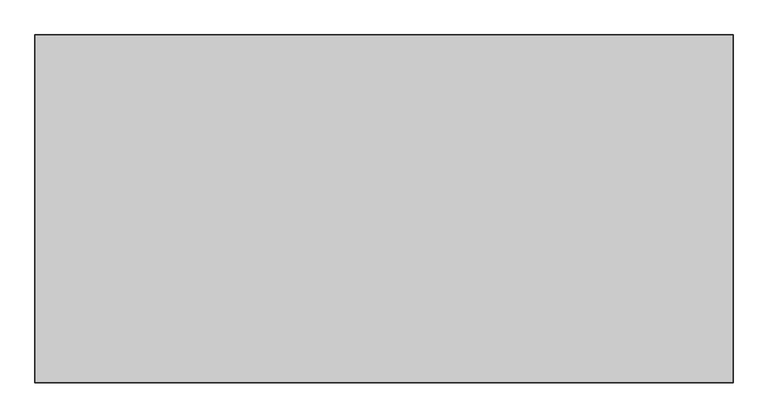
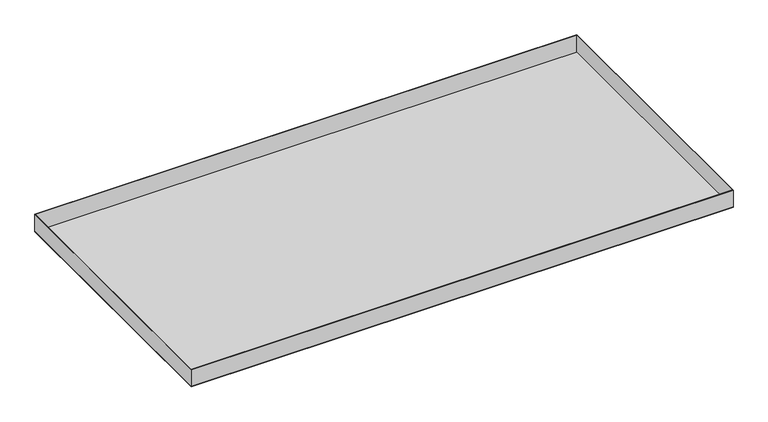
"""IFC4 building model written with IfcOpenShell, lengths in millimetres: proxy geometry, durlum_S4_panel : durlum_S4_panel."""

import ifcopenshell
import ifcopenshell.guid

model = None  # the IFC model being written
_history = None  # IfcOwnerHistory: only IFC2X3 demands one
_inside = {}  # id of a spatial element -> (the spatial element, [elements in it])
_under = {}  # id of a project, library or spatial element -> (it, [spatial elements below it])
_declared = {}  # id of a project -> (the project, [libraries it declares])
_typed = {}  # id of a type object -> (the type object, [elements of that type])
_made_of = {}  # id of a material, layer set ... -> (it, [elements and type objects made of it])


def new_model(schema):
    """Start an empty IFC model of exactly this schema.

    Asked for "IFC4X3", IfcOpenShell would pick the latest addendum, in which some entities
    have other attributes; the version numbers below select the first issue.
    IFC2X3 requires an IfcOwnerHistory on every rooted entity: one is made here for all.
    """
    global model, _history
    if schema == "IFC4X3":
        model = ifcopenshell.file(schema_version=(4, 3, 0, 0))
    else:
        model = ifcopenshell.file(schema=schema)
    _inside.clear()
    _under.clear()
    _declared.clear()
    _typed.clear()
    _made_of.clear()
    _history = None
    if model.schema == "IFC2X3":
        org = make("IfcOrganization", Name="unknown")
        user = make(
            "IfcPersonAndOrganization",
            ThePerson=make("IfcPerson", FamilyName="unknown"),
            TheOrganization=org,
        )
        app = make(
            "IfcApplication",
            ApplicationDeveloper=org,
            Version="unknown",
            ApplicationFullName="unknown",
            ApplicationIdentifier="unknown",
        )
        _history = make(
            "IfcOwnerHistory",
            OwningUser=user,
            OwningApplication=app,
            ChangeAction="ADDED",
            CreationDate=0,
        )
    return model


def make(cls, **values):
    """One entity of the class cls with the attributes given. An attribute that is None is left unset."""
    return model.create_entity(
        cls, **{name: value for name, value in values.items() if value is not None}
    )


def rooted(cls, **values):
    """An entity with a GlobalId (a new one), such as an element, a storey or a relation."""
    return make(cls, GlobalId=ifcopenshell.guid.new(), OwnerHistory=_history, **values)


def si_unit(unit_type, name, prefix=None):
    """IfcSIUnit, for example si_unit("LENGTHUNIT", "METRE", prefix="MILLI")."""
    return make("IfcSIUnit", UnitType=unit_type, Prefix=prefix, Name=name)


def assignment(units):
    """IfcUnitAssignment: the units of a project."""
    return None if units is None else make("IfcUnitAssignment", Units=units)


def point(xyz):
    """IfcCartesianPoint."""
    return None if xyz is None else make("IfcCartesianPoint", Coordinates=xyz)


def direction(xyz):
    """IfcDirection."""
    return None if xyz is None else make("IfcDirection", DirectionRatios=xyz)


def frame(location, z_axis=None, x_axis=None):
    """IfcAxis2Placement3D, a coordinate frame: its origin and axes. An axis left out is left unset."""
    return make(
        "IfcAxis2Placement3D",
        Location=point(location),
        Axis=direction(z_axis),
        RefDirection=direction(x_axis),
    )


def origin():
    """The frame at (0, 0, 0) with its axes left unset."""
    return frame((0.0, 0.0, 0.0))


def origin_with_axes():
    """The frame at (0, 0, 0) with the z axis (0, 0, 1) and the x axis (1, 0, 0) written out."""
    return frame((0.0, 0.0, 0.0), z_axis=(0.0, 0.0, 1.0), x_axis=(1.0, 0.0, 0.0))


def place(relative_to, where):
    """IfcLocalPlacement: puts the frame where relative to a parent placement (None: the world)."""
    return make(
        "IfcLocalPlacement", PlacementRelTo=relative_to, RelativePlacement=where
    )


def context(
    kind, dimensions, precision=None, world=None, true_north=None, identifier=None
):
    """IfcGeometricRepresentationContext, for example the 3D "Model" context."""
    return make(
        "IfcGeometricRepresentationContext",
        ContextIdentifier=identifier,
        ContextType=kind,
        CoordinateSpaceDimension=dimensions,
        Precision=precision,
        WorldCoordinateSystem=world,
        TrueNorth=true_north,
    )


def project(units=None, contexts=None):
    """IfcProject with its units and contexts."""
    return rooted(
        "IfcProject",
        Name="project",
        RepresentationContexts=contexts,
        UnitsInContext=assignment(units),
    )


def spatial(cls, under=None, at=None, **own):
    """A site, building, storey or space (cls), placed at a placement, below another one or the project."""
    s = rooted(cls, ObjectPlacement=at, **own)
    if under is not None:
        _under.setdefault(under.id(), (under, []))[1].append(s)
    return s


def polyline(points):
    """IfcPolyline through the points."""
    return make("IfcPolyline", Points=[point(p) for p in points])


def outline(outer, holes=None, kind="AREA"):
    """IfcArbitraryClosedProfileDef: a profile drawn as a closed curve; with holes, ...WithVoids."""
    if holes is None:
        return make("IfcArbitraryClosedProfileDef", ProfileType=kind, OuterCurve=outer)
    return make(
        "IfcArbitraryProfileDefWithVoids",
        ProfileType=kind,
        OuterCurve=outer,
        InnerCurves=holes,
    )


def extrude(swept, where, along, depth):
    """IfcExtrudedAreaSolid: the profile swept, set in the frame where, extruded along a direction by depth."""
    return make(
        "IfcExtrudedAreaSolid",
        SweptArea=swept,
        Position=where,
        ExtrudedDirection=direction(along),
        Depth=depth,
    )


def shape(context_of_items, identifier, shape_type, items):
    """IfcShapeRepresentation: the items that make up one representation, for example the "Body"."""
    return make(
        "IfcShapeRepresentation",
        ContextOfItems=context_of_items,
        RepresentationIdentifier=identifier,
        RepresentationType=shape_type,
        Items=items,
    )


def source(mapping_origin, context_of_items, identifier, shape_type, items):
    """IfcRepresentationMap: a shape defined once, which mapped items show again and again."""
    return make(
        "IfcRepresentationMap",
        MappingOrigin=mapping_origin,
        MappedRepresentation=shape(context_of_items, identifier, shape_type, items),
    )


def transform(
    local_origin,
    x_axis=None,
    y_axis=None,
    z_axis=None,
    scale=None,
    scale2=None,
    scale3=None,
    uniform=True,
):
    """IfcCartesianTransformationOperator3D, or its non-uniform kind. x_axis, y_axis, z_axis: its Axis1, 2, 3."""
    if uniform:
        return make(
            "IfcCartesianTransformationOperator3D",
            Axis1=direction(x_axis),
            Axis2=direction(y_axis),
            LocalOrigin=point(local_origin),
            Scale=scale,
            Axis3=direction(z_axis),
        )
    return make(
        "IfcCartesianTransformationOperator3DnonUniform",
        Axis1=direction(x_axis),
        Axis2=direction(y_axis),
        LocalOrigin=point(local_origin),
        Scale=scale,
        Axis3=direction(z_axis),
        Scale2=scale2,
        Scale3=scale3,
    )


def mapped(mapping_source, mapping_target):
    """IfcMappedItem: shows the shape of a source again, moved by a transform."""
    return make(
        "IfcMappedItem", MappingSource=mapping_source, MappingTarget=mapping_target
    )


def made_of(thing, what):
    """Note that an element or type object is made of a material, layer set ...; save() writes the relation."""
    if what is not None:
        _made_of.setdefault(what.id(), (what, []))[1].append(thing)
    return thing


def element(
    cls,
    number,
    at=None,
    inside=None,
    cuts=None,
    type_object=None,
    material=None,
    context=None,
    identifier="Body",
    shape_type=None,
    held_by="IfcProductDefinitionShape",
    body=None,
    shapes=None,
    **own,
):
    """One element of the class cls, such as IfcWall. Its Tag is "e" and its number.

    at: its placement. inside: the storey or other place that contains it. cuts: it is an
    opening in that element (IfcRelVoidsElement). A single representation is given by context,
    identifier, shape_type and body (its items); several are given by shapes. held_by: the class
    of the entity that holds the representations. save() writes the other relations.
    """
    e = rooted(cls, Tag="e%d" % number, ObjectPlacement=at, **own)
    if body is not None:
        shapes = [shape(context, identifier, shape_type, body)]
    if shapes is not None:
        e.Representation = make(held_by, Representations=shapes)
    if inside is not None:
        _inside.setdefault(inside.id(), (inside, []))[1].append(e)
    if cuts is not None:
        rooted(
            "IfcRelVoidsElement", RelatingBuildingElement=cuts, RelatedOpeningElement=e
        )
    if type_object is not None:
        _typed.setdefault(type_object.id(), (type_object, []))[1].append(e)
    return made_of(e, material)


def aggregate(whole, parts):
    """IfcRelAggregates: a whole, such as a stair, and the parts it consists of."""
    return rooted("IfcRelAggregates", RelatingObject=whole, RelatedObjects=parts)


def save(model, path):
    """Write the relations noted so far, then the file.

    IfcRelAggregates (storeys below a building ...), IfcRelContainedInSpatialStructure (elements
    in a storey), IfcRelDefinesByType, IfcRelAssociatesMaterial and IfcRelDeclares: one each for
    every whole, place, type object, material and project.
    """
    for whole, parts in _under.values():
        aggregate(whole, parts)
    for where, things in _inside.values():
        rooted(
            "IfcRelContainedInSpatialStructure",
            RelatedElements=things,
            RelatingStructure=where,
        )
    for kind, things in _typed.values():
        rooted("IfcRelDefinesByType", RelatedObjects=things, RelatingType=kind)
    for what, things in _made_of.values():
        rooted("IfcRelAssociatesMaterial", RelatedObjects=things, RelatingMaterial=what)
    for by, libraries in _declared.values():
        rooted("IfcRelDeclares", RelatingContext=by, RelatedDefinitions=libraries)
    model.write(path)


def generic_models_257fdc35(model_context):
    return source(origin(), model_context, "Body", "SweptSolid", [
        extrude(outline(polyline([(599.0, 299.0), (599.0, -299.0), (-599.0, -299.0), (-599.0, 299.0), (599.0, 299.0)]), holes=[polyline([(598.0, 298.0), (-598.0, 298.0), (-598.0, -298.0), (598.0, -298.0), (598.0, 298.0)])]), frame((0.0, 0.0, 1.0), z_axis=(0.0, 0.0, 1.0), x_axis=(1.0, 0.0, 0.0)), (0.0, 0.0, 1.0), 39.0),
        extrude(outline(polyline([(599.0, 299.0), (599.0, -299.0), (-599.0, -299.0), (-599.0, 299.0), (599.0, 299.0)])), origin_with_axes(), (0.0, 0.0, 1.0), 1.0),
    ])


if __name__ == "__main__":
    model = new_model("IFC4")
    model_context = context("Model", 3, world=origin())
    ifc_project = project(units=[si_unit("LENGTHUNIT", "METRE", prefix="MILLI")], contexts=[model_context])
    site = spatial("IfcSite", under=ifc_project)
    building = spatial("IfcBuilding", under=site)
    placement = place(None, origin())
    generic_models_shape = generic_models_257fdc35(model_context)
    element("IfcBuildingElementProxy", 1, Name="durlum_S4_panel : durlum_S4_panel", ObjectType="durlum_S4_panel : durlum_S4_panel", at=placement, inside=building, context=model_context, shape_type="MappedRepresentation", body=[
        mapped(generic_models_shape, transform((0.0, 0.0, 0.0), x_axis=(1.0, 0.0, 0.0), y_axis=(0.0, 1.0, 0.0), z_axis=(0.0, 0.0, 1.0))),
    ])
    save(model, "model.ifc")
